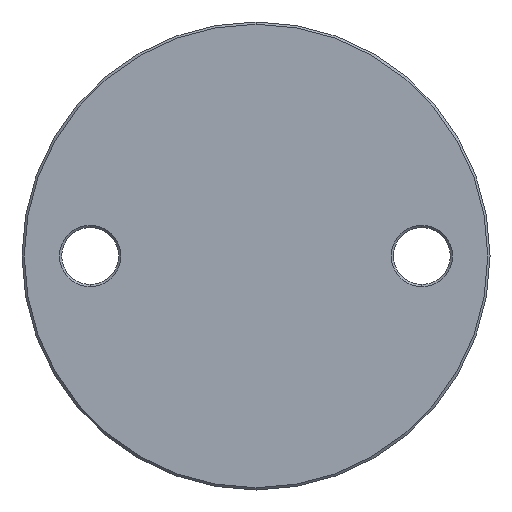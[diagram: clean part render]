
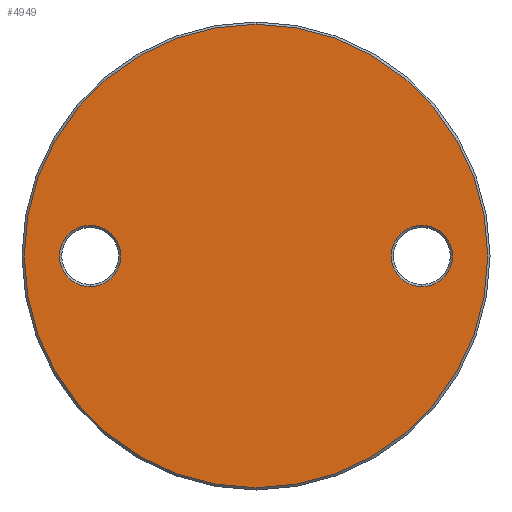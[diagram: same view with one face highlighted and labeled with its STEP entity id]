
A CAD part, front view. The second image highlights one B-rep face of the part: STEP entity #4949.
In plain terms, the highlighted planar face has unit normal (0, -1, 0).
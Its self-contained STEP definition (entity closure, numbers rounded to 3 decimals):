
#12 = FACE_BOUND ( 'NONE', #5924, .T. ) ;
#626 = AXIS2_PLACEMENT_3D ( 'NONE', #4856, #6689, #3473 ) ;
#764 = AXIS2_PLACEMENT_3D ( 'NONE', #1882, #4504, #4605 ) ;
#785 = VERTEX_POINT ( 'NONE', #2910 ) ;
#824 = DIRECTION ( 'NONE',  ( 0., 1., 0. ) ) ;
#851 = CARTESIAN_POINT ( 'NONE',  ( -36.5, -3., 0. ) ) ;
#1008 = FACE_BOUND ( 'NONE', #1761, .T. ) ;
#1019 = AXIS2_PLACEMENT_3D ( 'NONE', #5752, #4708, #5242 ) ;
#1178 = CARTESIAN_POINT ( 'NONE',  ( 0., -3., 51. ) ) ;
#1419 = PLANE ( 'NONE',  #1966 ) ;
#1441 = CIRCLE ( 'NONE', #626, 51. ) ;
#1484 = AXIS2_PLACEMENT_3D ( 'NONE', #2170, #4719, #6693 ) ;
#1490 = VERTEX_POINT ( 'NONE', #4234 ) ;
#1511 = CARTESIAN_POINT ( 'NONE',  ( -36.5, -3., -6.75 ) ) ;
#1690 = AXIS2_PLACEMENT_3D ( 'NONE', #851, #824, #4530 ) ;
#1740 = ORIENTED_EDGE ( 'NONE', *, *, #3675, .T. ) ;
#1761 = EDGE_LOOP ( 'NONE', ( #5578, #3419 ) ) ;
#1777 = DIRECTION ( 'NONE',  ( 0., 1., 0. ) ) ;
#1882 = CARTESIAN_POINT ( 'NONE',  ( 36.5, -3., 0. ) ) ;
#1966 = AXIS2_PLACEMENT_3D ( 'NONE', #3549, #4084, #3574 ) ;
#2167 = ORIENTED_EDGE ( 'NONE', *, *, #2201, .T. ) ;
#2170 = CARTESIAN_POINT ( 'NONE',  ( -36.5, -3., 0. ) ) ;
#2201 = EDGE_CURVE ( 'NONE', #3658, #4340, #2683, .T. ) ;
#2568 = AXIS2_PLACEMENT_3D ( 'NONE', #6068, #1777, #5507 ) ;
#2645 = CIRCLE ( 'NONE', #1690, 6.75 ) ;
#2683 = CIRCLE ( 'NONE', #1019, 51. ) ;
#2910 = CARTESIAN_POINT ( 'NONE',  ( 36.5, -3., 6.75 ) ) ;
#2918 = EDGE_LOOP ( 'NONE', ( #1740, #2167 ) ) ;
#3087 = FACE_OUTER_BOUND ( 'NONE', #2918, .T. ) ;
#3114 = VERTEX_POINT ( 'NONE', #1511 ) ;
#3406 = CIRCLE ( 'NONE', #2568, 6.75 ) ;
#3419 = ORIENTED_EDGE ( 'NONE', *, *, #4714, .T. ) ;
#3473 = DIRECTION ( 'NONE',  ( 0., 0., -1. ) ) ;
#3549 = CARTESIAN_POINT ( 'NONE',  ( 0., -3., 51.5 ) ) ;
#3574 = DIRECTION ( 'NONE',  ( 0., 0., -1. ) ) ;
#3658 = VERTEX_POINT ( 'NONE', #4069 ) ;
#3675 = EDGE_CURVE ( 'NONE', #4340, #3658, #1441, .T. ) ;
#3846 = EDGE_CURVE ( 'NONE', #5237, #785, #3406, .T. ) ;
#4069 = CARTESIAN_POINT ( 'NONE',  ( 0., -3., -51. ) ) ;
#4084 = DIRECTION ( 'NONE',  ( 0., -1., 0. ) ) ;
#4234 = CARTESIAN_POINT ( 'NONE',  ( -36.5, -3., 6.75 ) ) ;
#4340 = VERTEX_POINT ( 'NONE', #1178 ) ;
#4365 = CARTESIAN_POINT ( 'NONE',  ( 36.5, -3., -6.75 ) ) ;
#4418 = ORIENTED_EDGE ( 'NONE', *, *, #5219, .T. ) ;
#4471 = CIRCLE ( 'NONE', #1484, 6.75 ) ;
#4504 = DIRECTION ( 'NONE',  ( 0., 1., 0. ) ) ;
#4530 = DIRECTION ( 'NONE',  ( 0., 0., -1. ) ) ;
#4605 = DIRECTION ( 'NONE',  ( 0., 0., -1. ) ) ;
#4708 = DIRECTION ( 'NONE',  ( 0., -1., 0. ) ) ;
#4714 = EDGE_CURVE ( 'NONE', #785, #5237, #5073, .T. ) ;
#4719 = DIRECTION ( 'NONE',  ( 0., 1., 0. ) ) ;
#4738 = EDGE_CURVE ( 'NONE', #3114, #1490, #2645, .T. ) ;
#4856 = CARTESIAN_POINT ( 'NONE',  ( 0., -3., 0. ) ) ;
#4949 = ADVANCED_FACE ( 'NONE', ( #1008, #12, #3087 ), #1419, .T. ) ;
#5073 = CIRCLE ( 'NONE', #764, 6.75 ) ;
#5219 = EDGE_CURVE ( 'NONE', #1490, #3114, #4471, .T. ) ;
#5237 = VERTEX_POINT ( 'NONE', #4365 ) ;
#5242 = DIRECTION ( 'NONE',  ( 0., 0., -1. ) ) ;
#5507 = DIRECTION ( 'NONE',  ( 0., 0., -1. ) ) ;
#5578 = ORIENTED_EDGE ( 'NONE', *, *, #3846, .T. ) ;
#5752 = CARTESIAN_POINT ( 'NONE',  ( 0., -3., 0. ) ) ;
#5924 = EDGE_LOOP ( 'NONE', ( #6418, #4418 ) ) ;
#6068 = CARTESIAN_POINT ( 'NONE',  ( 36.5, -3., 0. ) ) ;
#6418 = ORIENTED_EDGE ( 'NONE', *, *, #4738, .T. ) ;
#6689 = DIRECTION ( 'NONE',  ( 0., -1., 0. ) ) ;
#6693 = DIRECTION ( 'NONE',  ( 0., 0., -1. ) ) ;
